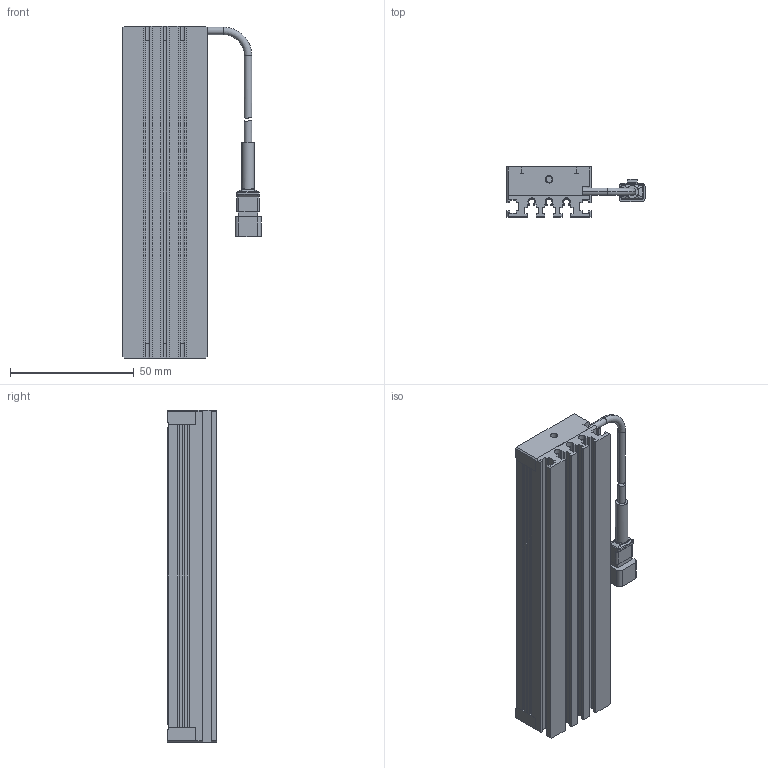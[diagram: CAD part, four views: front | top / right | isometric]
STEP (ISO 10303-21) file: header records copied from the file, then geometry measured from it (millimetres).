
FILE_DESCRIPTION (( 'STEP AP203' ), '1' );
FILE_NAME ('26x30_LDL2-122X30GR2.STEP', '2024-09-30T06:38:37', ( 'CCS' ), ( 'シーシーエス株式会社' ), 'SwSTEP 2.0', 'SolidWorks 2022', '' );
FILE_SCHEMA (( 'CONFIG_CONTROL_DESIGN' ));
Length unit declared in the file: millimetre
Products named in the file (7): SMケーブル_パターン2; 26x30_LDL2-122X30GR2; フレーム30_LDL2-122X30GR2; レンズ30_LDL2-122X30GR2; BSCA002-N007_M2x12_CAP(三価ｸﾛﾑ黒色); ブロック30B_LDL2-122X30GR2; ブロック30A_LDL2-122X30GR2
Assembly tree (9 placements, depth 2):
  26x30_LDL2-122X30GR2
    フレーム30_LDL2-122X30GR2
    レンズ30_LDL2-122X30GR2
    ブロック30B_LDL2-122X30GR2
    ブロック30A_LDL2-122X30GR2
    BSCA002-N007_M2x12_CAP(三価ｸﾛﾑ黒色)  x4
    SMケーブル_パターン2
Bounding box: 55.75 x 20 x 134 mm (x, y, z)
Volume: 70989.3 mm3; surface area: 42961.8 mm2
Topology: 10 solids, 10 shells, 481 faces, 1243 edges, 785 vertices
Faces by surface type: plane 288, cylinder 107, bspline 44, cone 24, torus 18
Entity records: 14680 total; most frequent: CARTESIAN_POINT 4090, ORIENTED_EDGE 2118, DIRECTION 1903, EDGE_CURVE 1059, VECTOR 761, LINE 761, VERTEX_POINT 686, AXIS2_PLACEMENT_3D 571
